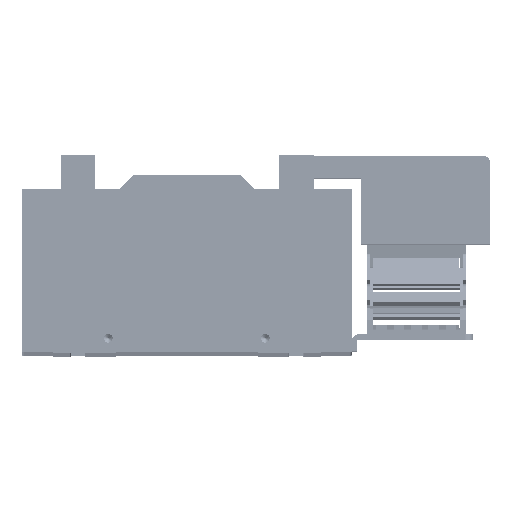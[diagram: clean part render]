
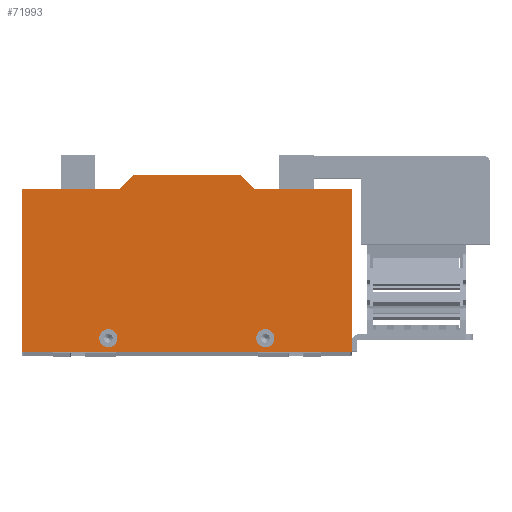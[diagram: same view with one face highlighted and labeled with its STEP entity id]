
A CAD part, top view. The second image highlights one B-rep face of the part: STEP entity #71993.
In plain terms, the highlighted planar face has unit normal (0, 0, 1) as drawn and (0, 0, -1) by its records, which use the part's own axes.
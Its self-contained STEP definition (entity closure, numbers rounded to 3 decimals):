
#70959 = VERTEX_POINT ( 'NONE', #98926 ) ;
#71110 = VERTEX_POINT ( 'NONE', #99235 ) ;
#71175 = EDGE_CURVE ( 'NONE', #71110, #76440, #99445, .T. ) ;
#71239 = EDGE_CURVE ( 'NONE', #76441, #71246, #99661, .T. ) ;
#71246 = VERTEX_POINT ( 'NONE', #99640 ) ;
#71257 = EDGE_CURVE ( 'NONE', #70959, #71292, #99734, .T. ) ;
#71292 = VERTEX_POINT ( 'NONE', #99788 ) ;
#71502 = ORIENTED_EDGE ( 'NONE', *, *, #71504, .F. ) ;
#71504 = EDGE_CURVE ( 'NONE', #71505, #71246, #100482, .T. ) ;
#71505 = VERTEX_POINT ( 'NONE', #100477 ) ;
#71509 = ORIENTED_EDGE ( 'NONE', *, *, #71513, .F. ) ;
#71513 = EDGE_CURVE ( 'NONE', #70959, #71505, #100468, .T. ) ;
#71517 = ORIENTED_EDGE ( 'NONE', *, *, #71257, .T. ) ;
#71520 = ORIENTED_EDGE ( 'NONE', *, *, #78199, .F. ) ;
#71522 = VERTEX_POINT ( 'NONE', #100572 ) ;
#71525 = EDGE_LOOP ( 'NONE', ( #71946, #71918 ) ) ;
#71596 = EDGE_CURVE ( 'NONE', #76395, #76388, #100753, .T. ) ;
#71599 = ORIENTED_EDGE ( 'NONE', *, *, #76393, .F. ) ;
#71600 = EDGE_LOOP ( 'NONE', ( #71604, #71502, #71509, #71517, #71520, #78203, #78209, #78214 ) ) ;
#71604 = ORIENTED_EDGE ( 'NONE', *, *, #71239, .T. ) ;
#71910 = EDGE_LOOP ( 'NONE', ( #71914, #71599 ) ) ;
#71914 = ORIENTED_EDGE ( 'NONE', *, *, #71596, .F. ) ;
#71918 = ORIENTED_EDGE ( 'NONE', *, *, #76576, .F. ) ;
#71923 = EDGE_CURVE ( 'NONE', #76577, #76571, #101554, .T. ) ;
#71946 = ORIENTED_EDGE ( 'NONE', *, *, #71923, .F. ) ;
#71993 = ADVANCED_FACE ( 'NONE', ( #101668, #101660, #101659 ), #101656, .F. ) ;
#76388 = VERTEX_POINT ( 'NONE', #114937 ) ;
#76393 = EDGE_CURVE ( 'NONE', #76388, #76395, #114917, .T. ) ;
#76395 = VERTEX_POINT ( 'NONE', #115030 ) ;
#76439 = EDGE_CURVE ( 'NONE', #76440, #76441, #115164, .T. ) ;
#76440 = VERTEX_POINT ( 'NONE', #115158 ) ;
#76441 = VERTEX_POINT ( 'NONE', #115155 ) ;
#76571 = VERTEX_POINT ( 'NONE', #115588 ) ;
#76576 = EDGE_CURVE ( 'NONE', #76571, #76577, #115549, .T. ) ;
#76577 = VERTEX_POINT ( 'NONE', #115538 ) ;
#78199 = EDGE_CURVE ( 'NONE', #71522, #71292, #99406, .T. ) ;
#78203 = ORIENTED_EDGE ( 'NONE', *, *, #78206, .F. ) ;
#78206 = EDGE_CURVE ( 'NONE', #71110, #71522, #99519, .T. ) ;
#78209 = ORIENTED_EDGE ( 'NONE', *, *, #71175, .T. ) ;
#78214 = ORIENTED_EDGE ( 'NONE', *, *, #76439, .T. ) ;
#98926 = CARTESIAN_POINT ( 'NONE',  ( -49.191, -17.701, 0. ) ) ;
#99235 = CARTESIAN_POINT ( 'NONE',  ( -175.191, -9.701, 0. ) ) ;
#99402 = DIRECTION ( 'NONE',  ( 0.707, -0.707, 0. ) ) ;
#99404 = VECTOR ( 'NONE', #99402, 1000. ) ;
#99405 = CARTESIAN_POINT ( 'NONE',  ( -111.191, -17.701, 0. ) ) ;
#99406 = LINE ( 'NONE', #99405, #99404 ) ;
#99442 = DIRECTION ( 'NONE',  ( 0., 1., 0. ) ) ;
#99443 = VECTOR ( 'NONE', #99442, 1000. ) ;
#99444 = CARTESIAN_POINT ( 'NONE',  ( -175.191, -17.701, 0. ) ) ;
#99445 = LINE ( 'NONE', #99444, #99443 ) ;
#99515 = DIRECTION ( 'NONE',  ( 1., 0., 0. ) ) ;
#99516 = VECTOR ( 'NONE', #99515, 1000. ) ;
#99517 = CARTESIAN_POINT ( 'NONE',  ( -119.191, -9.701, 0. ) ) ;
#99519 = LINE ( 'NONE', #99517, #99516 ) ;
#99640 = CARTESIAN_POINT ( 'NONE',  ( 14.809, -9.701, 0. ) ) ;
#99656 = DIRECTION ( 'NONE',  ( 0., -1., 0. ) ) ;
#99658 = VECTOR ( 'NONE', #99656, 1000. ) ;
#99660 = CARTESIAN_POINT ( 'NONE',  ( 14.809, 84.299, 0. ) ) ;
#99661 = LINE ( 'NONE', #99660, #99658 ) ;
#99730 = DIRECTION ( 'NONE',  ( -1., 0., 0. ) ) ;
#99731 = VECTOR ( 'NONE', #99730, 1000. ) ;
#99732 = CARTESIAN_POINT ( 'NONE',  ( 14.809, -17.701, 0. ) ) ;
#99734 = LINE ( 'NONE', #99732, #99731 ) ;
#99788 = CARTESIAN_POINT ( 'NONE',  ( -111.191, -17.701, 0. ) ) ;
#100463 = DIRECTION ( 'NONE',  ( 0.707, 0.707, 0. ) ) ;
#100465 = VECTOR ( 'NONE', #100463, 1000. ) ;
#100467 = CARTESIAN_POINT ( 'NONE',  ( -41.191, -9.701, 0. ) ) ;
#100468 = LINE ( 'NONE', #100467, #100465 ) ;
#100477 = CARTESIAN_POINT ( 'NONE',  ( -41.191, -9.701, 0. ) ) ;
#100479 = DIRECTION ( 'NONE',  ( 1., 0., 0. ) ) ;
#100480 = VECTOR ( 'NONE', #100479, 1000. ) ;
#100481 = CARTESIAN_POINT ( 'NONE',  ( 14.809, -9.701, 0. ) ) ;
#100482 = LINE ( 'NONE', #100481, #100480 ) ;
#100572 = CARTESIAN_POINT ( 'NONE',  ( -119.191, -9.701, 0. ) ) ;
#100747 = DIRECTION ( 'NONE',  ( -1., 0., 0. ) ) ;
#100748 = DIRECTION ( 'NONE',  ( 0., 0., -1. ) ) ;
#100750 = CARTESIAN_POINT ( 'NONE',  ( -34.941, 76.299, 0. ) ) ;
#100751 = AXIS2_PLACEMENT_3D ( 'NONE', #100750, #100748, #100747 ) ;
#100753 = CIRCLE ( 'NONE', #100751, 5.25 ) ;
#101550 = DIRECTION ( 'NONE',  ( -1., 0., 0. ) ) ;
#101551 = DIRECTION ( 'NONE',  ( 0., 0., -1. ) ) ;
#101552 = CARTESIAN_POINT ( 'NONE',  ( -125.441, 76.299, 0. ) ) ;
#101553 = AXIS2_PLACEMENT_3D ( 'NONE', #101552, #101551, #101550 ) ;
#101554 = CIRCLE ( 'NONE', #101553, 5.25 ) ;
#101650 = DIRECTION ( 'NONE',  ( 1., 0., 0. ) ) ;
#101651 = DIRECTION ( 'NONE',  ( 0., 0., 1. ) ) ;
#101652 = CARTESIAN_POINT ( 'NONE',  ( -175.191, 84.299, 0. ) ) ;
#101654 = AXIS2_PLACEMENT_3D ( 'NONE', #101652, #101651, #101650 ) ;
#101656 = PLANE ( 'NONE',  #101654 ) ;
#101659 = FACE_OUTER_BOUND ( 'NONE', #71600, .T. ) ;
#101660 = FACE_BOUND ( 'NONE', #71910, .T. ) ;
#101668 = FACE_BOUND ( 'NONE', #71525, .T. ) ;
#114913 = DIRECTION ( 'NONE',  ( -1., 0., 0. ) ) ;
#114914 = DIRECTION ( 'NONE',  ( 0., 0., -1. ) ) ;
#114915 = CARTESIAN_POINT ( 'NONE',  ( -34.941, 76.299, 0. ) ) ;
#114916 = AXIS2_PLACEMENT_3D ( 'NONE', #114915, #114914, #114913 ) ;
#114917 = CIRCLE ( 'NONE', #114916, 5.25 ) ;
#114937 = CARTESIAN_POINT ( 'NONE',  ( -29.691, 76.299, 0. ) ) ;
#115030 = CARTESIAN_POINT ( 'NONE',  ( -40.191, 76.299, 0. ) ) ;
#115155 = CARTESIAN_POINT ( 'NONE',  ( 14.809, 84.299, 0. ) ) ;
#115158 = CARTESIAN_POINT ( 'NONE',  ( -175.191, 84.299, 0. ) ) ;
#115160 = DIRECTION ( 'NONE',  ( 1., 0., 0. ) ) ;
#115162 = VECTOR ( 'NONE', #115160, 1000. ) ;
#115163 = CARTESIAN_POINT ( 'NONE',  ( -175.191, 84.299, 0. ) ) ;
#115164 = LINE ( 'NONE', #115163, #115162 ) ;
#115538 = CARTESIAN_POINT ( 'NONE',  ( -130.691, 76.299, 0. ) ) ;
#115541 = DIRECTION ( 'NONE',  ( -1., 0., 0. ) ) ;
#115544 = DIRECTION ( 'NONE',  ( 0., 0., -1. ) ) ;
#115546 = AXIS2_PLACEMENT_3D ( 'NONE', #115564, #115544, #115541 ) ;
#115549 = CIRCLE ( 'NONE', #115546, 5.25 ) ;
#115564 = CARTESIAN_POINT ( 'NONE',  ( -125.441, 76.299, 0. ) ) ;
#115588 = CARTESIAN_POINT ( 'NONE',  ( -120.191, 76.299, 0. ) ) ;
